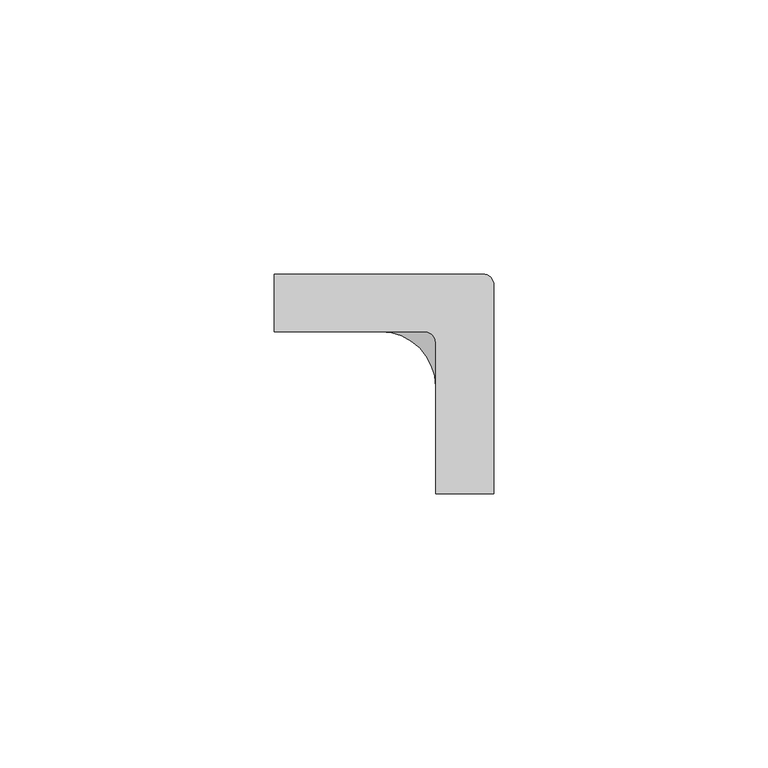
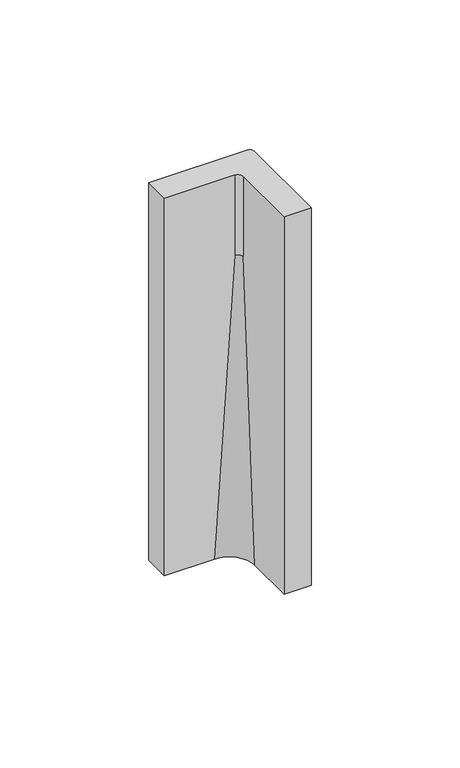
"""IFC4 building model written with IfcOpenShell, lengths in millimetres: proxy geometry, ROSA GRES_040A : Pieza 040A_Mistery_Grey_Liso."""

from ifc_helpers import new_model, si_unit, frame, origin, place, context, project, spatial, polyline, circle_curve, source, transform, mapped, element, save
from ifc_brep_helpers import plane_surface, cylinder_surface, revolved_surface, spline_surface, advanced_brep


def generic_models_71dcb820(model_context):
    return source(origin(), model_context, "Body", "AdvancedBrep", [
        advanced_brep(
        [(-40.0650814, -10.5047871, 155.0), (-12.6043336, -10.5047871, 155.0), (-10.6043336, -12.5047871, 155.0), (-10.6043336, -40.0344708, 155.0), (0.0, -40.0735975, 155.0), (0.0, -2.0, 155.0), (-2.0, 0.0, 155.0), (-40.079289, 0.0, 155.0), (-40.0650814, -10.5047871, 0.0), (-20.6043336, -10.5047871, 0.0), (-12.6043336, -10.5047871, 122.0), (-10.6043336, -12.5047871, 122.0), (-10.6043336, -20.5047871, 0.0), (-10.6043336, -40.0344708, 0.0), (0.0, -40.0735975, 0.0), (0.0, -17.0, 0.0), (0.0, -2.0, 122.0), (-2.0, 0.0, 122.0), (-17.0, 0.0, 0.0), (-40.079289, 0.0, 0.0)],
        [
            (0, 1),
            (1, 2, circle_curve(frame((-12.6043336, -12.5047871, 155.0), z_axis=(0.0, 0.0, -1.0), x_axis=(1.0, 0.0, 0.0)), 2.0)),
            (2, 3),
            (3, 4),
            (4, 5),
            (5, 6, circle_curve(frame((-2.0, -2.0, 155.0), z_axis=(0.0, 0.0, 1.0), x_axis=(1.0, 0.0, 0.0)), 2.0)),
            (6, 7),
            (7, 0),
            (0, 8),
            (8, 9),
            (9, 10),
            (10, 1),
            (10, 11, circle_curve(frame((-12.6043336, -12.5047871, 122.0), z_axis=(0.0, 0.0, -1.0), x_axis=(1.0, 0.0, 0.0)), 2.0)),
            (11, 2),
            (11, 12),
            (12, 13),
            (13, 3),
            (13, 14),
            (14, 4),
            (14, 15),
            (15, 16),
            (16, 5),
            (16, 17, circle_curve(frame((-2.0, -2.0, 122.0), z_axis=(0.0, 0.0, 1.0), x_axis=(1.0, 0.0, 0.0)), 2.0)),
            (17, 6),
            (17, 18),
            (18, 19),
            (19, 7),
            (19, 8),
            (18, 15, circle_curve(frame((-17.0, -17.0, 0.0), z_axis=(0.0, 0.0, -1.0), x_axis=(1.0, 0.0, 0.0)), 17.0)),
            (12, 9, circle_curve(frame((-20.6043336, -20.5047871, 0.0), z_axis=(0.0, 0.0, 1.0), x_axis=(1.0, 0.0, 0.0)), 10.0)),
        ],
        [
            plane_surface(frame((-40.0650814, -10.5047871, 155.0), z_axis=(0.0, 0.0, 1.0), x_axis=(1.0, 0.0, 0.0))),
            plane_surface(frame((-40.0650814, -10.5047871, 155.0), z_axis=(0.0, -1.0, 0.0), x_axis=(0.0, 0.0, -1.0))),
            revolved_surface(polyline([(-10.6043336, -12.5047871, 122.0), (-10.6043336, -12.5047871, 155.0)]), (-12.6043336, -12.5047871, 122.0), (0.0, 0.0, -1.0)),
            plane_surface(frame((-10.6043336, -12.5047871, 155.0), z_axis=(-1.0, 0.0, 0.0), x_axis=(0.0, 0.0, -1.0))),
            plane_surface(frame((-10.6043336, -40.0344708, 155.0), z_axis=(-0.0036896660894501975, -0.9999931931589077, 0.0), x_axis=(0.0, 0.0, -1.0))),
            plane_surface(frame((0.0, -40.0735975, 155.0), z_axis=(1.0, 0.0, 0.0), x_axis=(0.0, 0.0, -1.0))),
            cylinder_surface(frame((-2.0, -2.0, 122.0), z_axis=(0.0, 0.0, 1.0), x_axis=(1.0, 0.0, 0.0)), 2.0),
            plane_surface(frame((-2.0, 0.0, 155.0), z_axis=(0.0, 1.0, 0.0), x_axis=(0.0, 0.0, -1.0))),
            plane_surface(frame((-40.079289, 0.0, 155.0), z_axis=(-0.9999990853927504, -0.0013524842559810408, 0.0), x_axis=(0.0, 0.0, -1.0))),
            plane_surface(frame((-17.3696714, -17.3278037, 0.0), z_axis=(0.0, 0.0, -1.0), x_axis=(0.0, -1.0, 0.0))),
            spline_surface(2, 1, [[(-2.0, 0.0, 122.0), (-17.0, 0.0, 0.0)], [(0.0, 0.0, 122.0), (0.0, 0.0, 0.0)], [(0.0, -2.0, 122.0), (0.0, -17.0, 0.0)]], [3, 3], [2, 2], [0.0, 1.0], [0.0, 1.0], weights=[[1.0, 1.0], [0.7071067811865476, 0.7071067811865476], [1.0, 1.0]]),
            spline_surface(2, 1, [[(-10.6043336, -12.5047871, 122.0), (-10.6043336, -20.5047871, 0.0)], [(-10.6043336, -10.5047871, 122.0), (-10.604333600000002, -10.504787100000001, 0.0)], [(-12.6043336, -10.5047871, 122.0), (-20.6043336, -10.5047871, 0.0)]], [3, 3], [2, 2], [0.0, 1.0], [0.0, 1.0], weights=[[1.0, 1.0], [0.7071067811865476, 0.7071067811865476], [1.0, 1.0]]),
        ],
        [
            (0, [[1, 2, 3, 4, 5, 6, 7, 8]]),
            (1, [[-1, 9, 10, 11, 12]]),
            (2, [[-2, -12, 13, 14]]),
            (3, [[-3, -14, 15, 16, 17]]),
            (4, [[-4, -17, 18, 19]]),
            (5, [[-5, -19, 20, 21, 22]]),
            (6, [[-6, -22, 23, 24]]),
            (7, [[-7, -24, 25, 26, 27]]),
            (8, [[-9, -8, -27, 28]]),
            (9, [[-26, 29, -20, -18, -16, 30, -10, -28]]),
            (10, [[-29, -25, -23, -21]]),
            (11, [[-30, -15, -13, -11]]),
        ],
    ),
    ])


if __name__ == "__main__":
    model = new_model("IFC4")
    model_context = context("Model", 3, world=origin())
    ifc_project = project(units=[si_unit("LENGTHUNIT", "METRE", prefix="MILLI")], contexts=[model_context])
    site = spatial("IfcSite", under=ifc_project)
    building = spatial("IfcBuilding", under=site)
    placement = place(None, origin())
    generic_models_shape = generic_models_71dcb820(model_context)
    element("IfcBuildingElementProxy", 1, Name="ROSA GRES_040A : Pieza 040A_Mistery_Grey_Liso", ObjectType="ROSA GRES_040A : Pieza 040A_Mistery_Grey_Liso", at=placement, inside=building, context=model_context, shape_type="MappedRepresentation", body=[
        mapped(generic_models_shape, transform((0.0, 0.0, 0.0), x_axis=(1.0, 0.0, 0.0), y_axis=(0.0, 1.0, 0.0), z_axis=(0.0, 0.0, 1.0))),
    ])
    save(model, "model.ifc")
